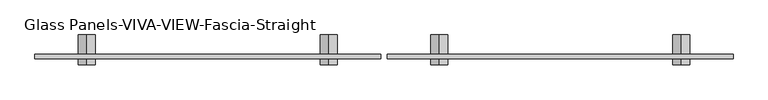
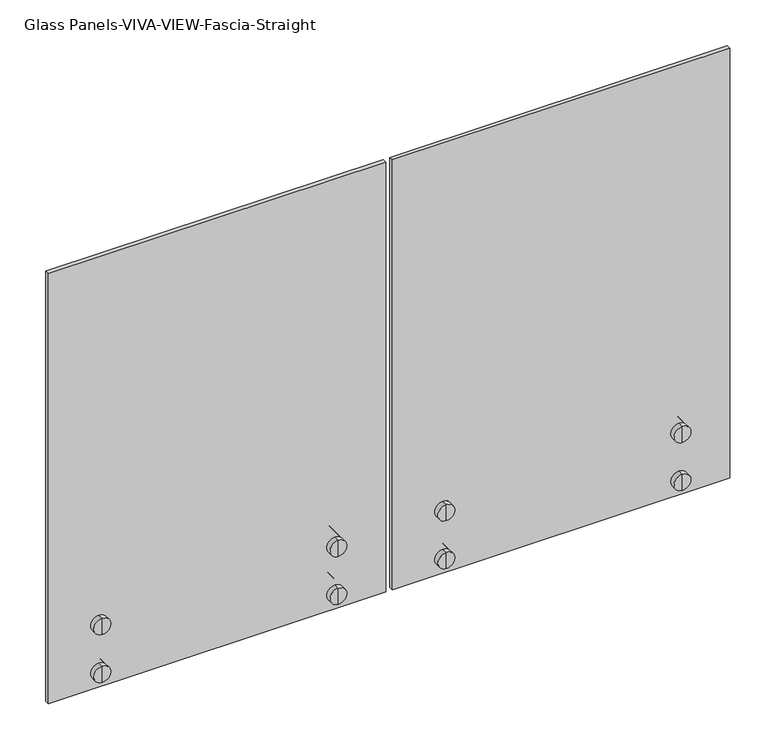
"""IFC4 building model written with IfcOpenShell, lengths in millimetres: railing geometry, Glass Panels-VIVA-VIEW-Fascia-Straight."""

from ifc_helpers import new_model, si_unit, frame, origin, place, context, project, spatial, polyline, circle_curve, outline, extrude, source, transform, mapped, element, save
from ifc_brep_helpers import plane_surface, cylinder_surface, advanced_brep


def glass_panels_viva_view_fascia_straight_cd74b2d6(model_context):
    return source(origin(), model_context, "Body", "SolidModel", [
        advanced_brep(
        [(21124.7896899, -2620.3591646, 2794.0), (21124.7896899, -2620.3591646, 2844.8), (21124.7896899, -2620.3591646, 2819.4), (21124.7896899, -2602.8966646, 2794.0), (21124.7896899, -2602.8966646, 2844.8), (21124.7896899, -2602.8966646, 2813.685), (21124.7896899, -2602.8966646, 2825.115), (21124.7896899, -2590.1966646, 2813.685), (21124.7896899, -2590.1966646, 2825.115), (21124.7896899, -2590.1966646, 2794.0), (21124.7896899, -2590.1966646, 2844.8), (21124.7896899, -2533.0468115, 2794.0), (21124.7896899, -2533.0468115, 2844.8), (21124.7896899, -2533.0468115, 2819.4)],
        [
            (0, 1, circle_curve(frame((21124.7896899, -2620.3591646, 2819.4), z_axis=(0.0, -1.0, 0.0), x_axis=(0.0, 0.0, 1.0)), 25.4)),
            (1, 2),
            (2, 0),
            (1, 0, circle_curve(frame((21124.7896899, -2620.3591646, 2819.4), z_axis=(0.0, -1.0, 0.0), x_axis=(0.0, 0.0, 1.0)), 25.4)),
            (3, 4, circle_curve(frame((21124.7896899, -2602.8966646, 2819.4), z_axis=(0.0, -1.0, 0.0), x_axis=(0.0, 0.0, 1.0)), 25.4)),
            (4, 1),
            (0, 3),
            (4, 3, circle_curve(frame((21124.7896899, -2602.8966646, 2819.4), z_axis=(0.0, -1.0, 0.0), x_axis=(0.0, 0.0, 1.0)), 25.4)),
            (5, 6, circle_curve(frame((21124.7896899, -2602.8966646, 2819.4), z_axis=(0.0, -1.0, 0.0), x_axis=(0.0, 0.0, 1.0)), 5.715)),
            (6, 4),
            (3, 5),
            (6, 5, circle_curve(frame((21124.7896899, -2602.8966646, 2819.4), z_axis=(0.0, -1.0, 0.0), x_axis=(0.0, 0.0, 1.0)), 5.715)),
            (7, 8, circle_curve(frame((21124.7896899, -2590.1966646, 2819.4), z_axis=(0.0, -1.0, 0.0), x_axis=(0.0, 0.0, 1.0)), 5.715)),
            (8, 6),
            (5, 7),
            (8, 7, circle_curve(frame((21124.7896899, -2590.1966646, 2819.4), z_axis=(0.0, -1.0, 0.0), x_axis=(0.0, 0.0, 1.0)), 5.715)),
            (9, 10, circle_curve(frame((21124.7896899, -2590.1966646, 2819.4), z_axis=(0.0, -1.0, 0.0), x_axis=(0.0, 0.0, 1.0)), 25.4)),
            (10, 8),
            (7, 9),
            (10, 9, circle_curve(frame((21124.7896899, -2590.1966646, 2819.4), z_axis=(0.0, -1.0, 0.0), x_axis=(0.0, 0.0, 1.0)), 25.4)),
            (11, 12, circle_curve(frame((21124.7896899, -2533.0468115, 2819.4), z_axis=(0.0, -1.0, 0.0), x_axis=(0.0, 0.0, 1.0)), 25.4)),
            (12, 10),
            (9, 11),
            (12, 11, circle_curve(frame((21124.7896899, -2533.0468115, 2819.4), z_axis=(0.0, -1.0, 0.0), x_axis=(0.0, 0.0, 1.0)), 25.4)),
            (13, 12),
            (11, 13),
        ],
        [
            plane_surface(frame((21124.7896899, -2620.3591646, 2819.4), z_axis=(0.0, -1.0, 0.0), x_axis=(0.0, 0.0, 1.0))),
            cylinder_surface(frame((21124.7896899, -2688.6218115, 2819.4), z_axis=(0.0, 1.0, 0.0), x_axis=(0.0, 0.0, 1.0)), 25.4),
            plane_surface(frame((21124.7896899, -2602.8966646, 2819.4), z_axis=(0.0, 1.0, 0.0), x_axis=(0.0, 0.0, 1.0))),
            cylinder_surface(frame((21124.7896899, -2688.6218115, 2819.4), z_axis=(0.0, 1.0, 0.0), x_axis=(0.0, 0.0, 1.0)), 5.715),
            plane_surface(frame((21124.7896899, -2590.1966646, 2819.4), z_axis=(0.0, -1.0, 0.0), x_axis=(0.0, 0.0, 1.0))),
            plane_surface(frame((21124.7896899, -2533.0468115, 2819.4), z_axis=(0.0, 1.0, 0.0), x_axis=(0.0, 0.0, 1.0))),
        ],
        [
            (0, [[1, 2, 3]]),
            (0, [[4, -3, -2]]),
            (1, [[5, 6, -1, 7]]),
            (1, [[8, -7, -4, -6]]),
            (2, [[9, 10, -5, 11]]),
            (2, [[12, -11, -8, -10]]),
            (3, [[13, 14, -9, 15]]),
            (3, [[16, -15, -12, -14]]),
            (4, [[17, 18, -13, 19]]),
            (4, [[20, -19, -16, -18]]),
            (1, [[21, 22, -17, 23]]),
            (1, [[24, -23, -20, -22]]),
            (5, [[25, -21, 26]]),
            (5, [[-26, -24, -25]]),
        ],
    ),
        advanced_brep(
        [(21124.7896899, -2602.8966646, 2966.085), (21124.7896899, -2602.8966646, 2977.515), (21124.7896899, -2602.8966646, 2997.2), (21124.7896899, -2602.8966646, 2946.4), (21124.7896899, -2590.1966646, 2966.085), (21124.7896899, -2590.1966646, 2977.515), (21124.7896899, -2590.1966646, 2946.4), (21124.7896899, -2590.1966646, 2997.2), (21124.7896899, -2533.0468115, 2946.4), (21124.7896899, -2533.0468115, 2997.2), (21124.7896899, -2533.0468115, 2971.8), (21124.7896899, -2620.3591646, 2946.4), (21124.7896899, -2620.3591646, 2997.2), (21124.7896899, -2620.3591646, 2971.8)],
        [
            (0, 1, circle_curve(frame((21124.7896899, -2602.8966646, 2971.8), z_axis=(0.0, -1.0, 0.0), x_axis=(0.0, 0.0, 1.0)), 5.715)),
            (1, 2),
            (2, 3, circle_curve(frame((21124.7896899, -2602.8966646, 2971.8), z_axis=(0.0, 1.0, 0.0), x_axis=(0.0, 0.0, 1.0)), 25.4)),
            (3, 0),
            (1, 0, circle_curve(frame((21124.7896899, -2602.8966646, 2971.8), z_axis=(0.0, -1.0, 0.0), x_axis=(0.0, 0.0, 1.0)), 5.715)),
            (3, 2, circle_curve(frame((21124.7896899, -2602.8966646, 2971.8), z_axis=(0.0, 1.0, 0.0), x_axis=(0.0, 0.0, 1.0)), 25.4)),
            (4, 5, circle_curve(frame((21124.7896899, -2590.1966646, 2971.8), z_axis=(0.0, -1.0, 0.0), x_axis=(0.0, 0.0, 1.0)), 5.715)),
            (5, 1),
            (0, 4),
            (5, 4, circle_curve(frame((21124.7896899, -2590.1966646, 2971.8), z_axis=(0.0, -1.0, 0.0), x_axis=(0.0, 0.0, 1.0)), 5.715)),
            (6, 7, circle_curve(frame((21124.7896899, -2590.1966646, 2971.8), z_axis=(0.0, -1.0, 0.0), x_axis=(0.0, 0.0, 1.0)), 25.4)),
            (7, 5),
            (4, 6),
            (7, 6, circle_curve(frame((21124.7896899, -2590.1966646, 2971.8), z_axis=(0.0, -1.0, 0.0), x_axis=(0.0, 0.0, 1.0)), 25.4)),
            (8, 9, circle_curve(frame((21124.7896899, -2533.0468115, 2971.8), z_axis=(0.0, -1.0, 0.0), x_axis=(0.0, 0.0, 1.0)), 25.4)),
            (9, 7),
            (6, 8),
            (9, 8, circle_curve(frame((21124.7896899, -2533.0468115, 2971.8), z_axis=(0.0, -1.0, 0.0), x_axis=(0.0, 0.0, 1.0)), 25.4)),
            (10, 9),
            (8, 10),
            (11, 12, circle_curve(frame((21124.7896899, -2620.3591646, 2971.8), z_axis=(0.0, -1.0, 0.0), x_axis=(0.0, 0.0, 1.0)), 25.4)),
            (12, 13),
            (13, 11),
            (12, 11, circle_curve(frame((21124.7896899, -2620.3591646, 2971.8), z_axis=(0.0, -1.0, 0.0), x_axis=(0.0, 0.0, 1.0)), 25.4)),
            (2, 12),
            (11, 3),
        ],
        [
            plane_surface(frame((21124.7896899, -2602.8966646, 2971.8), z_axis=(0.0, 1.0, 0.0), x_axis=(0.0, 0.0, 1.0))),
            cylinder_surface(frame((21124.7896899, -2688.6218115, 2971.8), z_axis=(0.0, 1.0, 0.0), x_axis=(0.0, 0.0, 1.0)), 5.715),
            plane_surface(frame((21124.7896899, -2590.1966646, 2971.8), z_axis=(0.0, -1.0, 0.0), x_axis=(0.0, 0.0, 1.0))),
            cylinder_surface(frame((21124.7896899, -2688.6218115, 2971.8), z_axis=(0.0, 1.0, 0.0), x_axis=(0.0, 0.0, 1.0)), 25.4),
            plane_surface(frame((21124.7896899, -2533.0468115, 2971.8), z_axis=(0.0, 1.0, 0.0), x_axis=(0.0, 0.0, 1.0))),
            plane_surface(frame((21124.7896899, -2620.3591646, 2971.8), z_axis=(0.0, -1.0, 0.0), x_axis=(0.0, 0.0, 1.0))),
        ],
        [
            (0, [[1, 2, 3, 4]]),
            (0, [[5, -4, 6, -2]]),
            (1, [[7, 8, -1, 9]]),
            (1, [[10, -9, -5, -8]]),
            (2, [[11, 12, -7, 13]]),
            (2, [[14, -13, -10, -12]]),
            (3, [[15, 16, -11, 17]]),
            (3, [[18, -17, -14, -16]]),
            (4, [[19, -15, 20]]),
            (4, [[-20, -18, -19]]),
            (5, [[21, 22, 23]]),
            (5, [[24, -23, -22]]),
            (3, [[-3, 25, -21, 26]]),
            (3, [[-6, -26, -24, -25]]),
        ],
    ),
        advanced_brep(
        [(21835.9896899, -2620.3591646, 2794.0), (21835.9896899, -2620.3591646, 2844.8), (21835.9896899, -2620.3591646, 2819.4), (21835.9896899, -2602.8966646, 2794.0), (21835.9896899, -2602.8966646, 2844.8), (21835.9896899, -2602.8966646, 2813.685), (21835.9896899, -2602.8966646, 2825.115), (21835.9896899, -2590.1966646, 2813.685), (21835.9896899, -2590.1966646, 2825.115), (21835.9896899, -2590.1966646, 2794.0), (21835.9896899, -2590.1966646, 2844.8), (21835.9896899, -2533.0468115, 2794.0), (21835.9896899, -2533.0468115, 2844.8), (21835.9896899, -2533.0468115, 2819.4)],
        [
            (0, 1, circle_curve(frame((21835.9896899, -2620.3591646, 2819.4), z_axis=(0.0, -1.0, 0.0), x_axis=(0.0, 0.0, 1.0)), 25.4)),
            (1, 2),
            (2, 0),
            (1, 0, circle_curve(frame((21835.9896899, -2620.3591646, 2819.4), z_axis=(0.0, -1.0, 0.0), x_axis=(0.0, 0.0, 1.0)), 25.4)),
            (3, 4, circle_curve(frame((21835.9896899, -2602.8966646, 2819.4), z_axis=(0.0, -1.0, 0.0), x_axis=(0.0, 0.0, 1.0)), 25.4)),
            (4, 1),
            (0, 3),
            (4, 3, circle_curve(frame((21835.9896899, -2602.8966646, 2819.4), z_axis=(0.0, -1.0, 0.0), x_axis=(0.0, 0.0, 1.0)), 25.4)),
            (5, 6, circle_curve(frame((21835.9896899, -2602.8966646, 2819.4), z_axis=(0.0, -1.0, 0.0), x_axis=(0.0, 0.0, 1.0)), 5.715)),
            (6, 4),
            (3, 5),
            (6, 5, circle_curve(frame((21835.9896899, -2602.8966646, 2819.4), z_axis=(0.0, -1.0, 0.0), x_axis=(0.0, 0.0, 1.0)), 5.715)),
            (7, 8, circle_curve(frame((21835.9896899, -2590.1966646, 2819.4), z_axis=(0.0, -1.0, 0.0), x_axis=(0.0, 0.0, 1.0)), 5.715)),
            (8, 6),
            (5, 7),
            (8, 7, circle_curve(frame((21835.9896899, -2590.1966646, 2819.4), z_axis=(0.0, -1.0, 0.0), x_axis=(0.0, 0.0, 1.0)), 5.715)),
            (9, 10, circle_curve(frame((21835.9896899, -2590.1966646, 2819.4), z_axis=(0.0, -1.0, 0.0), x_axis=(0.0, 0.0, 1.0)), 25.4)),
            (10, 8),
            (7, 9),
            (10, 9, circle_curve(frame((21835.9896899, -2590.1966646, 2819.4), z_axis=(0.0, -1.0, 0.0), x_axis=(0.0, 0.0, 1.0)), 25.4)),
            (11, 12, circle_curve(frame((21835.9896899, -2533.0468115, 2819.4), z_axis=(0.0, -1.0, 0.0), x_axis=(0.0, 0.0, 1.0)), 25.4)),
            (12, 10),
            (9, 11),
            (12, 11, circle_curve(frame((21835.9896899, -2533.0468115, 2819.4), z_axis=(0.0, -1.0, 0.0), x_axis=(0.0, 0.0, 1.0)), 25.4)),
            (13, 12),
            (11, 13),
        ],
        [
            plane_surface(frame((21835.9896899, -2620.3591646, 2819.4), z_axis=(0.0, -1.0, 0.0), x_axis=(0.0, 0.0, 1.0))),
            cylinder_surface(frame((21835.9896899, -2688.6218115, 2819.4), z_axis=(0.0, 1.0, 0.0), x_axis=(0.0, 0.0, 1.0)), 25.4),
            plane_surface(frame((21835.9896899, -2602.8966646, 2819.4), z_axis=(0.0, 1.0, 0.0), x_axis=(0.0, 0.0, 1.0))),
            cylinder_surface(frame((21835.9896899, -2688.6218115, 2819.4), z_axis=(0.0, 1.0, 0.0), x_axis=(0.0, 0.0, 1.0)), 5.715),
            plane_surface(frame((21835.9896899, -2590.1966646, 2819.4), z_axis=(0.0, -1.0, 0.0), x_axis=(0.0, 0.0, 1.0))),
            plane_surface(frame((21835.9896899, -2533.0468115, 2819.4), z_axis=(0.0, 1.0, 0.0), x_axis=(0.0, 0.0, 1.0))),
        ],
        [
            (0, [[1, 2, 3]]),
            (0, [[4, -3, -2]]),
            (1, [[5, 6, -1, 7]]),
            (1, [[8, -7, -4, -6]]),
            (2, [[9, 10, -5, 11]]),
            (2, [[12, -11, -8, -10]]),
            (3, [[13, 14, -9, 15]]),
            (3, [[16, -15, -12, -14]]),
            (4, [[17, 18, -13, 19]]),
            (4, [[20, -19, -16, -18]]),
            (1, [[21, 22, -17, 23]]),
            (1, [[24, -23, -20, -22]]),
            (5, [[25, -21, 26]]),
            (5, [[-26, -24, -25]]),
        ],
    ),
        advanced_brep(
        [(21835.9896899, -2602.8966646, 2966.085), (21835.9896899, -2602.8966646, 2977.515), (21835.9896899, -2602.8966646, 2997.2), (21835.9896899, -2602.8966646, 2946.4), (21835.9896899, -2590.1966646, 2966.085), (21835.9896899, -2590.1966646, 2977.515), (21835.9896899, -2590.1966646, 2946.4), (21835.9896899, -2590.1966646, 2997.2), (21835.9896899, -2533.0468115, 2946.4), (21835.9896899, -2533.0468115, 2997.2), (21835.9896899, -2533.0468115, 2971.8), (21835.9896899, -2620.3591646, 2946.4), (21835.9896899, -2620.3591646, 2997.2), (21835.9896899, -2620.3591646, 2971.8)],
        [
            (0, 1, circle_curve(frame((21835.9896899, -2602.8966646, 2971.8), z_axis=(0.0, -1.0, 0.0), x_axis=(0.0, 0.0, 1.0)), 5.715)),
            (1, 2),
            (2, 3, circle_curve(frame((21835.9896899, -2602.8966646, 2971.8), z_axis=(0.0, 1.0, 0.0), x_axis=(0.0, 0.0, 1.0)), 25.4)),
            (3, 0),
            (1, 0, circle_curve(frame((21835.9896899, -2602.8966646, 2971.8), z_axis=(0.0, -1.0, 0.0), x_axis=(0.0, 0.0, 1.0)), 5.715)),
            (3, 2, circle_curve(frame((21835.9896899, -2602.8966646, 2971.8), z_axis=(0.0, 1.0, 0.0), x_axis=(0.0, 0.0, 1.0)), 25.4)),
            (4, 5, circle_curve(frame((21835.9896899, -2590.1966646, 2971.8), z_axis=(0.0, -1.0, 0.0), x_axis=(0.0, 0.0, 1.0)), 5.715)),
            (5, 1),
            (0, 4),
            (5, 4, circle_curve(frame((21835.9896899, -2590.1966646, 2971.8), z_axis=(0.0, -1.0, 0.0), x_axis=(0.0, 0.0, 1.0)), 5.715)),
            (6, 7, circle_curve(frame((21835.9896899, -2590.1966646, 2971.8), z_axis=(0.0, -1.0, 0.0), x_axis=(0.0, 0.0, 1.0)), 25.4)),
            (7, 5),
            (4, 6),
            (7, 6, circle_curve(frame((21835.9896899, -2590.1966646, 2971.8), z_axis=(0.0, -1.0, 0.0), x_axis=(0.0, 0.0, 1.0)), 25.4)),
            (8, 9, circle_curve(frame((21835.9896899, -2533.0468115, 2971.8), z_axis=(0.0, -1.0, 0.0), x_axis=(0.0, 0.0, 1.0)), 25.4)),
            (9, 7),
            (6, 8),
            (9, 8, circle_curve(frame((21835.9896899, -2533.0468115, 2971.8), z_axis=(0.0, -1.0, 0.0), x_axis=(0.0, 0.0, 1.0)), 25.4)),
            (10, 9),
            (8, 10),
            (11, 12, circle_curve(frame((21835.9896899, -2620.3591646, 2971.8), z_axis=(0.0, -1.0, 0.0), x_axis=(0.0, 0.0, 1.0)), 25.4)),
            (12, 13),
            (13, 11),
            (12, 11, circle_curve(frame((21835.9896899, -2620.3591646, 2971.8), z_axis=(0.0, -1.0, 0.0), x_axis=(0.0, 0.0, 1.0)), 25.4)),
            (2, 12),
            (11, 3),
        ],
        [
            plane_surface(frame((21835.9896899, -2602.8966646, 2971.8), z_axis=(0.0, 1.0, 0.0), x_axis=(0.0, 0.0, 1.0))),
            cylinder_surface(frame((21835.9896899, -2688.6218115, 2971.8), z_axis=(0.0, 1.0, 0.0), x_axis=(0.0, 0.0, 1.0)), 5.715),
            plane_surface(frame((21835.9896899, -2590.1966646, 2971.8), z_axis=(0.0, -1.0, 0.0), x_axis=(0.0, 0.0, 1.0))),
            cylinder_surface(frame((21835.9896899, -2688.6218115, 2971.8), z_axis=(0.0, 1.0, 0.0), x_axis=(0.0, 0.0, 1.0)), 25.4),
            plane_surface(frame((21835.9896899, -2533.0468115, 2971.8), z_axis=(0.0, 1.0, 0.0), x_axis=(0.0, 0.0, 1.0))),
            plane_surface(frame((21835.9896899, -2620.3591646, 2971.8), z_axis=(0.0, -1.0, 0.0), x_axis=(0.0, 0.0, 1.0))),
        ],
        [
            (0, [[1, 2, 3, 4]]),
            (0, [[5, -4, 6, -2]]),
            (1, [[7, 8, -1, 9]]),
            (1, [[10, -9, -5, -8]]),
            (2, [[11, 12, -7, 13]]),
            (2, [[14, -13, -10, -12]]),
            (3, [[15, 16, -11, 17]]),
            (3, [[18, -17, -14, -16]]),
            (4, [[19, -15, 20]]),
            (4, [[-20, -18, -19]]),
            (5, [[21, 22, 23]]),
            (5, [[24, -23, -22]]),
            (3, [[-3, 25, -21, 26]]),
            (3, [[-6, -26, -24, -25]]),
        ],
    ),
        extrude(outline(polyline([(20972.3896899, -2590.1969585), (21988.3896899, -2590.1969585), (21988.3896899, -2602.8969585), (20972.3896899, -2602.8969585), (20972.3896899, -2590.1969585)])), frame((0.0, 0.0, 2768.6), z_axis=(0.0, 0.0, 1.0), x_axis=(1.0, 0.0, 0.0)), (0.0, 0.0, 1.0), 1370.0125),
        advanced_brep(
        [(20088.4696899, -2620.3591646, 2794.0), (20088.4696899, -2620.3591646, 2844.8), (20088.4696899, -2620.3591646, 2819.4), (20088.4696899, -2602.8966646, 2794.0), (20088.4696899, -2602.8966646, 2844.8), (20088.4696899, -2602.8966646, 2813.685), (20088.4696899, -2602.8966646, 2825.115), (20088.4696899, -2590.1966646, 2813.685), (20088.4696899, -2590.1966646, 2825.115), (20088.4696899, -2590.1966646, 2794.0), (20088.4696899, -2590.1966646, 2844.8), (20088.4696899, -2533.0468115, 2794.0), (20088.4696899, -2533.0468115, 2844.8), (20088.4696899, -2533.0468115, 2819.4)],
        [
            (0, 1, circle_curve(frame((20088.4696899, -2620.3591646, 2819.4), z_axis=(0.0, -1.0, 0.0), x_axis=(0.0, 0.0, 1.0)), 25.4)),
            (1, 2),
            (2, 0),
            (1, 0, circle_curve(frame((20088.4696899, -2620.3591646, 2819.4), z_axis=(0.0, -1.0, 0.0), x_axis=(0.0, 0.0, 1.0)), 25.4)),
            (3, 4, circle_curve(frame((20088.4696899, -2602.8966646, 2819.4), z_axis=(0.0, -1.0, 0.0), x_axis=(0.0, 0.0, 1.0)), 25.4)),
            (4, 1),
            (0, 3),
            (4, 3, circle_curve(frame((20088.4696899, -2602.8966646, 2819.4), z_axis=(0.0, -1.0, 0.0), x_axis=(0.0, 0.0, 1.0)), 25.4)),
            (5, 6, circle_curve(frame((20088.4696899, -2602.8966646, 2819.4), z_axis=(0.0, -1.0, 0.0), x_axis=(0.0, 0.0, 1.0)), 5.715)),
            (6, 4),
            (3, 5),
            (6, 5, circle_curve(frame((20088.4696899, -2602.8966646, 2819.4), z_axis=(0.0, -1.0, 0.0), x_axis=(0.0, 0.0, 1.0)), 5.715)),
            (7, 8, circle_curve(frame((20088.4696899, -2590.1966646, 2819.4), z_axis=(0.0, -1.0, 0.0), x_axis=(0.0, 0.0, 1.0)), 5.715)),
            (8, 6),
            (5, 7),
            (8, 7, circle_curve(frame((20088.4696899, -2590.1966646, 2819.4), z_axis=(0.0, -1.0, 0.0), x_axis=(0.0, 0.0, 1.0)), 5.715)),
            (9, 10, circle_curve(frame((20088.4696899, -2590.1966646, 2819.4), z_axis=(0.0, -1.0, 0.0), x_axis=(0.0, 0.0, 1.0)), 25.4)),
            (10, 8),
            (7, 9),
            (10, 9, circle_curve(frame((20088.4696899, -2590.1966646, 2819.4), z_axis=(0.0, -1.0, 0.0), x_axis=(0.0, 0.0, 1.0)), 25.4)),
            (11, 12, circle_curve(frame((20088.4696899, -2533.0468115, 2819.4), z_axis=(0.0, -1.0, 0.0), x_axis=(0.0, 0.0, 1.0)), 25.4)),
            (12, 10),
            (9, 11),
            (12, 11, circle_curve(frame((20088.4696899, -2533.0468115, 2819.4), z_axis=(0.0, -1.0, 0.0), x_axis=(0.0, 0.0, 1.0)), 25.4)),
            (13, 12),
            (11, 13),
        ],
        [
            plane_surface(frame((20088.4696899, -2620.3591646, 2819.4), z_axis=(0.0, -1.0, 0.0), x_axis=(0.0, 0.0, 1.0))),
            cylinder_surface(frame((20088.4696899, -2688.6218115, 2819.4), z_axis=(0.0, 1.0, 0.0), x_axis=(0.0, 0.0, 1.0)), 25.4),
            plane_surface(frame((20088.4696899, -2602.8966646, 2819.4), z_axis=(0.0, 1.0, 0.0), x_axis=(0.0, 0.0, 1.0))),
            cylinder_surface(frame((20088.4696899, -2688.6218115, 2819.4), z_axis=(0.0, 1.0, 0.0), x_axis=(0.0, 0.0, 1.0)), 5.715),
            plane_surface(frame((20088.4696899, -2590.1966646, 2819.4), z_axis=(0.0, -1.0, 0.0), x_axis=(0.0, 0.0, 1.0))),
            plane_surface(frame((20088.4696899, -2533.0468115, 2819.4), z_axis=(0.0, 1.0, 0.0), x_axis=(0.0, 0.0, 1.0))),
        ],
        [
            (0, [[1, 2, 3]]),
            (0, [[4, -3, -2]]),
            (1, [[5, 6, -1, 7]]),
            (1, [[8, -7, -4, -6]]),
            (2, [[9, 10, -5, 11]]),
            (2, [[12, -11, -8, -10]]),
            (3, [[13, 14, -9, 15]]),
            (3, [[16, -15, -12, -14]]),
            (4, [[17, 18, -13, 19]]),
            (4, [[20, -19, -16, -18]]),
            (1, [[21, 22, -17, 23]]),
            (1, [[24, -23, -20, -22]]),
            (5, [[25, -21, 26]]),
            (5, [[-26, -24, -25]]),
        ],
    ),
        advanced_brep(
        [(20088.4696899, -2602.8966646, 2966.085), (20088.4696899, -2602.8966646, 2977.515), (20088.4696899, -2602.8966646, 2997.2), (20088.4696899, -2602.8966646, 2946.4), (20088.4696899, -2590.1966646, 2966.085), (20088.4696899, -2590.1966646, 2977.515), (20088.4696899, -2590.1966646, 2946.4), (20088.4696899, -2590.1966646, 2997.2), (20088.4696899, -2533.0468115, 2946.4), (20088.4696899, -2533.0468115, 2997.2), (20088.4696899, -2533.0468115, 2971.8), (20088.4696899, -2620.3591646, 2946.4), (20088.4696899, -2620.3591646, 2997.2), (20088.4696899, -2620.3591646, 2971.8)],
        [
            (0, 1, circle_curve(frame((20088.4696899, -2602.8966646, 2971.8), z_axis=(0.0, -1.0, 0.0), x_axis=(0.0, 0.0, 1.0)), 5.715)),
            (1, 2),
            (2, 3, circle_curve(frame((20088.4696899, -2602.8966646, 2971.8), z_axis=(0.0, 1.0, 0.0), x_axis=(0.0, 0.0, 1.0)), 25.4)),
            (3, 0),
            (1, 0, circle_curve(frame((20088.4696899, -2602.8966646, 2971.8), z_axis=(0.0, -1.0, 0.0), x_axis=(0.0, 0.0, 1.0)), 5.715)),
            (3, 2, circle_curve(frame((20088.4696899, -2602.8966646, 2971.8), z_axis=(0.0, 1.0, 0.0), x_axis=(0.0, 0.0, 1.0)), 25.4)),
            (4, 5, circle_curve(frame((20088.4696899, -2590.1966646, 2971.8), z_axis=(0.0, -1.0, 0.0), x_axis=(0.0, 0.0, 1.0)), 5.715)),
            (5, 1),
            (0, 4),
            (5, 4, circle_curve(frame((20088.4696899, -2590.1966646, 2971.8), z_axis=(0.0, -1.0, 0.0), x_axis=(0.0, 0.0, 1.0)), 5.715)),
            (6, 7, circle_curve(frame((20088.4696899, -2590.1966646, 2971.8), z_axis=(0.0, -1.0, 0.0), x_axis=(0.0, 0.0, 1.0)), 25.4)),
            (7, 5),
            (4, 6),
            (7, 6, circle_curve(frame((20088.4696899, -2590.1966646, 2971.8), z_axis=(0.0, -1.0, 0.0), x_axis=(0.0, 0.0, 1.0)), 25.4)),
            (8, 9, circle_curve(frame((20088.4696899, -2533.0468115, 2971.8), z_axis=(0.0, -1.0, 0.0), x_axis=(0.0, 0.0, 1.0)), 25.4)),
            (9, 7),
            (6, 8),
            (9, 8, circle_curve(frame((20088.4696899, -2533.0468115, 2971.8), z_axis=(0.0, -1.0, 0.0), x_axis=(0.0, 0.0, 1.0)), 25.4)),
            (10, 9),
            (8, 10),
            (11, 12, circle_curve(frame((20088.4696899, -2620.3591646, 2971.8), z_axis=(0.0, -1.0, 0.0), x_axis=(0.0, 0.0, 1.0)), 25.4)),
            (12, 13),
            (13, 11),
            (12, 11, circle_curve(frame((20088.4696899, -2620.3591646, 2971.8), z_axis=(0.0, -1.0, 0.0), x_axis=(0.0, 0.0, 1.0)), 25.4)),
            (2, 12),
            (11, 3),
        ],
        [
            plane_surface(frame((20088.4696899, -2602.8966646, 2971.8), z_axis=(0.0, 1.0, 0.0), x_axis=(0.0, 0.0, 1.0))),
            cylinder_surface(frame((20088.4696899, -2688.6218115, 2971.8), z_axis=(0.0, 1.0, 0.0), x_axis=(0.0, 0.0, 1.0)), 5.715),
            plane_surface(frame((20088.4696899, -2590.1966646, 2971.8), z_axis=(0.0, -1.0, 0.0), x_axis=(0.0, 0.0, 1.0))),
            cylinder_surface(frame((20088.4696899, -2688.6218115, 2971.8), z_axis=(0.0, 1.0, 0.0), x_axis=(0.0, 0.0, 1.0)), 25.4),
            plane_surface(frame((20088.4696899, -2533.0468115, 2971.8), z_axis=(0.0, 1.0, 0.0), x_axis=(0.0, 0.0, 1.0))),
            plane_surface(frame((20088.4696899, -2620.3591646, 2971.8), z_axis=(0.0, -1.0, 0.0), x_axis=(0.0, 0.0, 1.0))),
        ],
        [
            (0, [[1, 2, 3, 4]]),
            (0, [[5, -4, 6, -2]]),
            (1, [[7, 8, -1, 9]]),
            (1, [[10, -9, -5, -8]]),
            (2, [[11, 12, -7, 13]]),
            (2, [[14, -13, -10, -12]]),
            (3, [[15, 16, -11, 17]]),
            (3, [[18, -17, -14, -16]]),
            (4, [[19, -15, 20]]),
            (4, [[-20, -18, -19]]),
            (5, [[21, 22, 23]]),
            (5, [[24, -23, -22]]),
            (3, [[-3, 25, -21, 26]]),
            (3, [[-6, -26, -24, -25]]),
        ],
    ),
        advanced_brep(
        [(20799.6696899, -2620.3591646, 2794.0), (20799.6696899, -2620.3591646, 2844.8), (20799.6696899, -2620.3591646, 2819.4), (20799.6696899, -2602.8966646, 2794.0), (20799.6696899, -2602.8966646, 2844.8), (20799.6696899, -2602.8966646, 2813.685), (20799.6696899, -2602.8966646, 2825.115), (20799.6696899, -2590.1966646, 2813.685), (20799.6696899, -2590.1966646, 2825.115), (20799.6696899, -2590.1966646, 2794.0), (20799.6696899, -2590.1966646, 2844.8), (20799.6696899, -2533.0468115, 2794.0), (20799.6696899, -2533.0468115, 2844.8), (20799.6696899, -2533.0468115, 2819.4)],
        [
            (0, 1, circle_curve(frame((20799.6696899, -2620.3591646, 2819.4), z_axis=(0.0, -1.0, 0.0), x_axis=(0.0, 0.0, 1.0)), 25.4)),
            (1, 2),
            (2, 0),
            (1, 0, circle_curve(frame((20799.6696899, -2620.3591646, 2819.4), z_axis=(0.0, -1.0, 0.0), x_axis=(0.0, 0.0, 1.0)), 25.4)),
            (3, 4, circle_curve(frame((20799.6696899, -2602.8966646, 2819.4), z_axis=(0.0, -1.0, 0.0), x_axis=(0.0, 0.0, 1.0)), 25.4)),
            (4, 1),
            (0, 3),
            (4, 3, circle_curve(frame((20799.6696899, -2602.8966646, 2819.4), z_axis=(0.0, -1.0, 0.0), x_axis=(0.0, 0.0, 1.0)), 25.4)),
            (5, 6, circle_curve(frame((20799.6696899, -2602.8966646, 2819.4), z_axis=(0.0, -1.0, 0.0), x_axis=(0.0, 0.0, 1.0)), 5.715)),
            (6, 4),
            (3, 5),
            (6, 5, circle_curve(frame((20799.6696899, -2602.8966646, 2819.4), z_axis=(0.0, -1.0, 0.0), x_axis=(0.0, 0.0, 1.0)), 5.715)),
            (7, 8, circle_curve(frame((20799.6696899, -2590.1966646, 2819.4), z_axis=(0.0, -1.0, 0.0), x_axis=(0.0, 0.0, 1.0)), 5.715)),
            (8, 6),
            (5, 7),
            (8, 7, circle_curve(frame((20799.6696899, -2590.1966646, 2819.4), z_axis=(0.0, -1.0, 0.0), x_axis=(0.0, 0.0, 1.0)), 5.715)),
            (9, 10, circle_curve(frame((20799.6696899, -2590.1966646, 2819.4), z_axis=(0.0, -1.0, 0.0), x_axis=(0.0, 0.0, 1.0)), 25.4)),
            (10, 8),
            (7, 9),
            (10, 9, circle_curve(frame((20799.6696899, -2590.1966646, 2819.4), z_axis=(0.0, -1.0, 0.0), x_axis=(0.0, 0.0, 1.0)), 25.4)),
            (11, 12, circle_curve(frame((20799.6696899, -2533.0468115, 2819.4), z_axis=(0.0, -1.0, 0.0), x_axis=(0.0, 0.0, 1.0)), 25.4)),
            (12, 10),
            (9, 11),
            (12, 11, circle_curve(frame((20799.6696899, -2533.0468115, 2819.4), z_axis=(0.0, -1.0, 0.0), x_axis=(0.0, 0.0, 1.0)), 25.4)),
            (13, 12),
            (11, 13),
        ],
        [
            plane_surface(frame((20799.6696899, -2620.3591646, 2819.4), z_axis=(0.0, -1.0, 0.0), x_axis=(0.0, 0.0, 1.0))),
            cylinder_surface(frame((20799.6696899, -2688.6218115, 2819.4), z_axis=(0.0, 1.0, 0.0), x_axis=(0.0, 0.0, 1.0)), 25.4),
            plane_surface(frame((20799.6696899, -2602.8966646, 2819.4), z_axis=(0.0, 1.0, 0.0), x_axis=(0.0, 0.0, 1.0))),
            cylinder_surface(frame((20799.6696899, -2688.6218115, 2819.4), z_axis=(0.0, 1.0, 0.0), x_axis=(0.0, 0.0, 1.0)), 5.715),
            plane_surface(frame((20799.6696899, -2590.1966646, 2819.4), z_axis=(0.0, -1.0, 0.0), x_axis=(0.0, 0.0, 1.0))),
            plane_surface(frame((20799.6696899, -2533.0468115, 2819.4), z_axis=(0.0, 1.0, 0.0), x_axis=(0.0, 0.0, 1.0))),
        ],
        [
            (0, [[1, 2, 3]]),
            (0, [[4, -3, -2]]),
            (1, [[5, 6, -1, 7]]),
            (1, [[8, -7, -4, -6]]),
            (2, [[9, 10, -5, 11]]),
            (2, [[12, -11, -8, -10]]),
            (3, [[13, 14, -9, 15]]),
            (3, [[16, -15, -12, -14]]),
            (4, [[17, 18, -13, 19]]),
            (4, [[20, -19, -16, -18]]),
            (1, [[21, 22, -17, 23]]),
            (1, [[24, -23, -20, -22]]),
            (5, [[25, -21, 26]]),
            (5, [[-26, -24, -25]]),
        ],
    ),
        advanced_brep(
        [(20799.6696899, -2602.8966646, 2966.085), (20799.6696899, -2602.8966646, 2977.515), (20799.6696899, -2602.8966646, 2997.2), (20799.6696899, -2602.8966646, 2946.4), (20799.6696899, -2590.1966646, 2966.085), (20799.6696899, -2590.1966646, 2977.515), (20799.6696899, -2590.1966646, 2946.4), (20799.6696899, -2590.1966646, 2997.2), (20799.6696899, -2533.0468115, 2946.4), (20799.6696899, -2533.0468115, 2997.2), (20799.6696899, -2533.0468115, 2971.8), (20799.6696899, -2620.3591646, 2946.4), (20799.6696899, -2620.3591646, 2997.2), (20799.6696899, -2620.3591646, 2971.8)],
        [
            (0, 1, circle_curve(frame((20799.6696899, -2602.8966646, 2971.8), z_axis=(0.0, -1.0, 0.0), x_axis=(0.0, 0.0, 1.0)), 5.715)),
            (1, 2),
            (2, 3, circle_curve(frame((20799.6696899, -2602.8966646, 2971.8), z_axis=(0.0, 1.0, 0.0), x_axis=(0.0, 0.0, 1.0)), 25.4)),
            (3, 0),
            (1, 0, circle_curve(frame((20799.6696899, -2602.8966646, 2971.8), z_axis=(0.0, -1.0, 0.0), x_axis=(0.0, 0.0, 1.0)), 5.715)),
            (3, 2, circle_curve(frame((20799.6696899, -2602.8966646, 2971.8), z_axis=(0.0, 1.0, 0.0), x_axis=(0.0, 0.0, 1.0)), 25.4)),
            (4, 5, circle_curve(frame((20799.6696899, -2590.1966646, 2971.8), z_axis=(0.0, -1.0, 0.0), x_axis=(0.0, 0.0, 1.0)), 5.715)),
            (5, 1),
            (0, 4),
            (5, 4, circle_curve(frame((20799.6696899, -2590.1966646, 2971.8), z_axis=(0.0, -1.0, 0.0), x_axis=(0.0, 0.0, 1.0)), 5.715)),
            (6, 7, circle_curve(frame((20799.6696899, -2590.1966646, 2971.8), z_axis=(0.0, -1.0, 0.0), x_axis=(0.0, 0.0, 1.0)), 25.4)),
            (7, 5),
            (4, 6),
            (7, 6, circle_curve(frame((20799.6696899, -2590.1966646, 2971.8), z_axis=(0.0, -1.0, 0.0), x_axis=(0.0, 0.0, 1.0)), 25.4)),
            (8, 9, circle_curve(frame((20799.6696899, -2533.0468115, 2971.8), z_axis=(0.0, -1.0, 0.0), x_axis=(0.0, 0.0, 1.0)), 25.4)),
            (9, 7),
            (6, 8),
            (9, 8, circle_curve(frame((20799.6696899, -2533.0468115, 2971.8), z_axis=(0.0, -1.0, 0.0), x_axis=(0.0, 0.0, 1.0)), 25.4)),
            (10, 9),
            (8, 10),
            (11, 12, circle_curve(frame((20799.6696899, -2620.3591646, 2971.8), z_axis=(0.0, -1.0, 0.0), x_axis=(0.0, 0.0, 1.0)), 25.4)),
            (12, 13),
            (13, 11),
            (12, 11, circle_curve(frame((20799.6696899, -2620.3591646, 2971.8), z_axis=(0.0, -1.0, 0.0), x_axis=(0.0, 0.0, 1.0)), 25.4)),
            (2, 12),
            (11, 3),
        ],
        [
            plane_surface(frame((20799.6696899, -2602.8966646, 2971.8), z_axis=(0.0, 1.0, 0.0), x_axis=(0.0, 0.0, 1.0))),
            cylinder_surface(frame((20799.6696899, -2688.6218115, 2971.8), z_axis=(0.0, 1.0, 0.0), x_axis=(0.0, 0.0, 1.0)), 5.715),
            plane_surface(frame((20799.6696899, -2590.1966646, 2971.8), z_axis=(0.0, -1.0, 0.0), x_axis=(0.0, 0.0, 1.0))),
            cylinder_surface(frame((20799.6696899, -2688.6218115, 2971.8), z_axis=(0.0, 1.0, 0.0), x_axis=(0.0, 0.0, 1.0)), 25.4),
            plane_surface(frame((20799.6696899, -2533.0468115, 2971.8), z_axis=(0.0, 1.0, 0.0), x_axis=(0.0, 0.0, 1.0))),
            plane_surface(frame((20799.6696899, -2620.3591646, 2971.8), z_axis=(0.0, -1.0, 0.0), x_axis=(0.0, 0.0, 1.0))),
        ],
        [
            (0, [[1, 2, 3, 4]]),
            (0, [[5, -4, 6, -2]]),
            (1, [[7, 8, -1, 9]]),
            (1, [[10, -9, -5, -8]]),
            (2, [[11, 12, -7, 13]]),
            (2, [[14, -13, -10, -12]]),
            (3, [[15, 16, -11, 17]]),
            (3, [[18, -17, -14, -16]]),
            (4, [[19, -15, 20]]),
            (4, [[-20, -18, -19]]),
            (5, [[21, 22, 23]]),
            (5, [[24, -23, -22]]),
            (3, [[-3, 25, -21, 26]]),
            (3, [[-6, -26, -24, -25]]),
        ],
    ),
        extrude(outline(polyline([(19936.0696899, -2590.1969585), (20952.0696899, -2590.1969585), (20952.0696899, -2602.8969585), (19936.0696899, -2602.8969585), (19936.0696899, -2590.1969585)])), frame((0.0, 0.0, 2768.6), z_axis=(0.0, 0.0, 1.0), x_axis=(1.0, 0.0, 0.0)), (0.0, 0.0, 1.0), 1370.0125),
    ])


if __name__ == "__main__":
    model = new_model("IFC4")
    model_context = context("Model", 3, world=origin())
    ifc_project = project(units=[si_unit("LENGTHUNIT", "METRE", prefix="MILLI")], contexts=[model_context])
    site = spatial("IfcSite", under=ifc_project)
    building = spatial("IfcBuilding", under=site)
    placement = place(None, origin())
    glass_panels_viva_view_fascia_straight_shape = glass_panels_viva_view_fascia_straight_cd74b2d6(model_context)
    element("IfcRailing", 1, ObjectType="Glass Panels-VIVA-VIEW-Fascia-Straight", at=placement, inside=building, context=model_context, shape_type="MappedRepresentation", body=[
        mapped(glass_panels_viva_view_fascia_straight_shape, transform((0.0, 0.0, 0.0), x_axis=(1.0, 0.0, 0.0), y_axis=(0.0, 1.0, 0.0), z_axis=(0.0, 0.0, 1.0))),
    ])
    save(model, "model.ifc")
